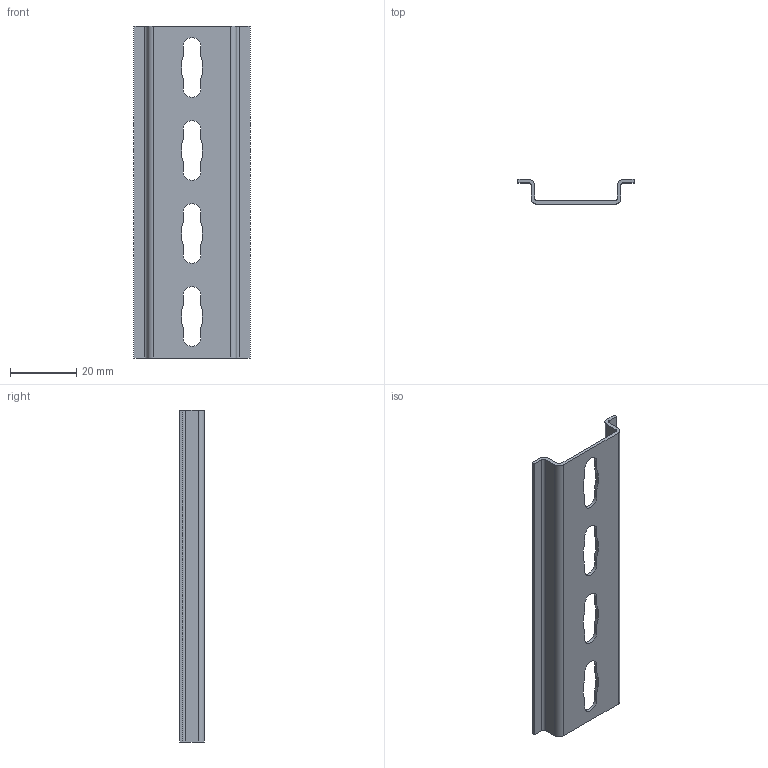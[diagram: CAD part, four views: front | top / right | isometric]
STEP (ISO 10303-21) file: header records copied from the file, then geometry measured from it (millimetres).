
FILE_DESCRIPTION (( 'STEP AP203' ), '1' );
FILE_NAME ('PP0735H_V1.STEP', '2019-01-14T10:33:48', ( '' ), ( '' ), 'SwSTEP 2.0', 'SolidWorks 2017', '' );
FILE_SCHEMA (( 'CONFIG_CONTROL_DESIGN' ));
Length unit declared in the file: millimetre
Products named in the file (1): PP0735H_V1
Bounding box: 35 x 7.5 x 100 mm (x, y, z)
Volume: 4203.8 mm3; surface area: 8867.9 mm2
Topology: 1 solids, 1 shells, 74 faces, 216 edges, 144 vertices
Faces by surface type: plane 54, cylinder 20
Entity records: 2533 total; most frequent: CARTESIAN_POINT 435, ORIENTED_EDGE 432, DIRECTION 406, EDGE_CURVE 216, LINE 176, VECTOR 176, VERTEX_POINT 144, AXIS2_PLACEMENT_3D 115
